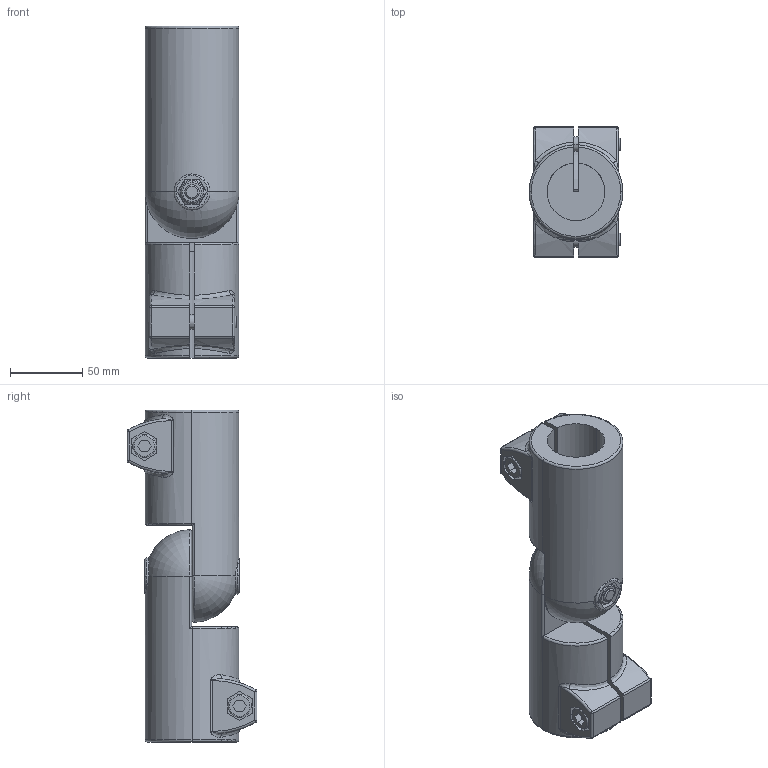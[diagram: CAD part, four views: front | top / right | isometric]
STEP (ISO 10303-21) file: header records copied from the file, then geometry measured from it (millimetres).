
FILE_DESCRIPTION (( 'STEP AP214' ), '1' );
FILE_NAME ('286-B40-B45-S-2-BL.step', '2021-12-02T12:15:21', ( '' ), ( '' ), 'SwSTEP 2.0', 'SolidWorks 2019', '' );
FILE_SCHEMA (( 'AUTOMOTIVE_DESIGN' ));
Length unit declared in the file: millimetre
Products named in the file (3): WB276^WB286_B40-IV-2-BL; 286-B40-B45-S-2-BL; WB276_1^WB286_B45-MZ-2-BL
Assembly tree (2 placements, depth 2):
  286-B40-B45-S-2-BL
    WB276^WB286_B40-IV-2-BL
    WB276_1^WB286_B45-MZ-2-BL
Bounding box: 65 x 90 x 230 mm (x, y, z)
Volume: 547531.5 mm3; surface area: 109425.2 mm2
Topology: 2 solids, 2 shells, 401 faces, 968 edges, 590 vertices
Faces by surface type: plane 195, cylinder 108, torus 46, cone 24, bspline 20, sphere 8
Entity records: 15770 total; most frequent: CARTESIAN_POINT 5474, ORIENTED_EDGE 1920, DIRECTION 1880, EDGE_CURVE 960, AXIS2_PLACEMENT_3D 738, VERTEX_POINT 590, EDGE_LOOP 434, VECTOR 404
